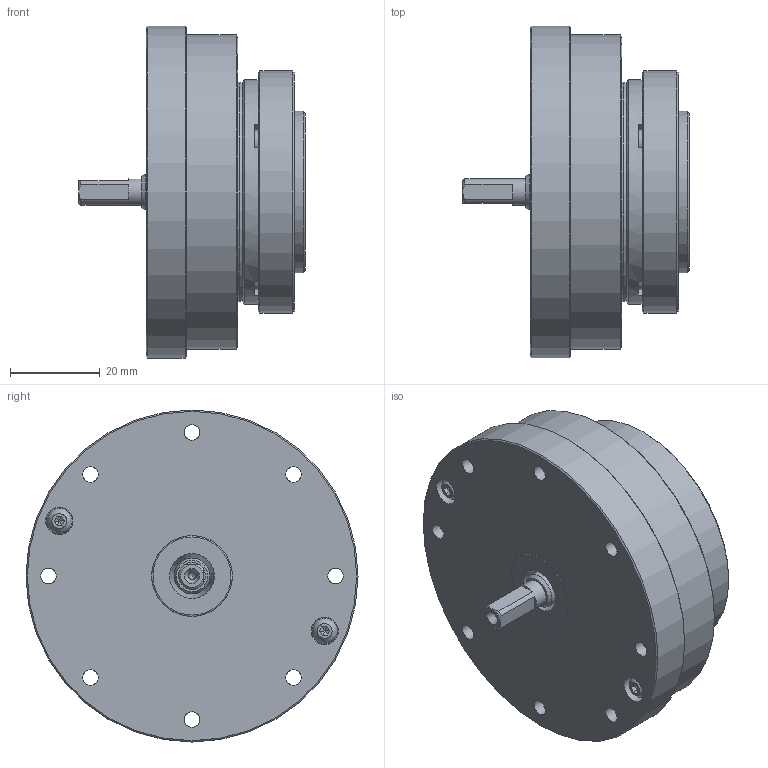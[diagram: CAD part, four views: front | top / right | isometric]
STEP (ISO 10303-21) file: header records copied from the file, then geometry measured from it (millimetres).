
FILE_DESCRIPTION (( 'STEP AP203' ), '1' );
FILE_NAME ('LHS-14-XXX-C-IV.STEP', '2025-01-07T05:56:29', ( '' ), ( '' ), 'SwSTEP 2.0', 'SolidWorks 2023', '' );
FILE_SCHEMA (( 'CONFIG_CONTROL_DESIGN' ));
Length unit declared in the file: metre
Products named in the file (1): LHS-14-XXX-C-IV
Bounding box: 50.5 x 74 x 74 mm (x, y, z)
Volume: 83590.6 mm3; surface area: 72862.2 mm2
Topology: 56 solids, 56 shells, 957 faces, 2383 edges, 1512 vertices
Faces by surface type: plane 422, cylinder 262, bspline 155, cone 118
Full cylindrical faces by diameter (mm): 1.5 x2, 1.6 x4, 2 x6, 2.4 x4, 2.5 x20, 3 x12, 3.5 x46, 3.7 x8, 3.8 x4, 4.5 x2, 5 x2, 5.5 x8, 6 x5, 6.5 x4, 7 x1, 7.5 x1, 7.6 x1, 7.667 x2, 8 x3, 10 x1, 10.333 x2, 10.8 x1, 11.667 x2, 12 x1, 13 x3, 15.333 x2, 15.6 x1, 17 x1, 18 x2, 19 x3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
Entity records: 31885 total; most frequent: CARTESIAN_POINT 11837, DIRECTION 4004, ORIENTED_EDGE 3700, EDGE_CURVE 1850, AXIS2_PLACEMENT_3D 1715, EDGE_LOOP 1546, VERTEX_POINT 1372, FACE_OUTER_BOUND 1214
